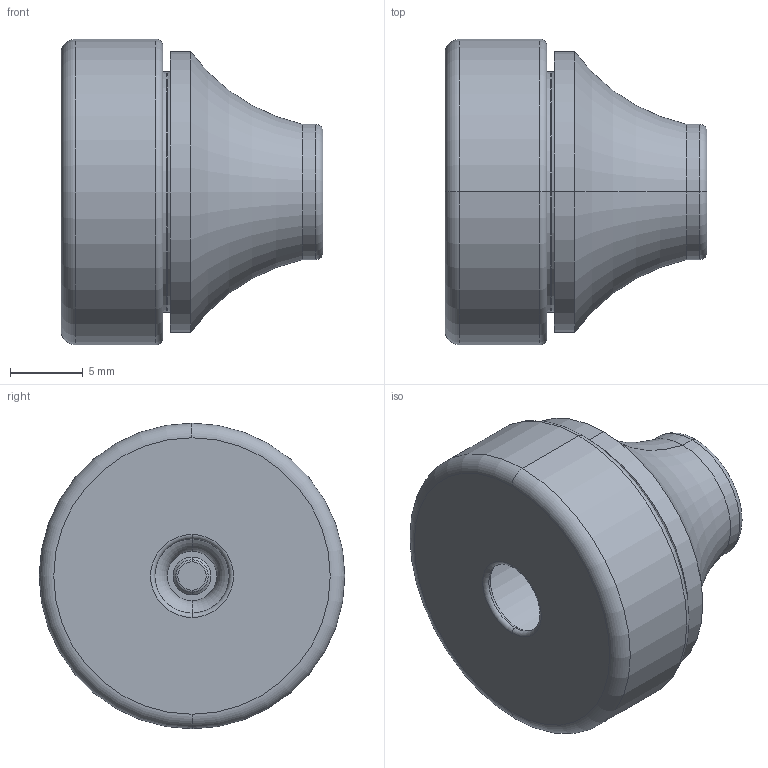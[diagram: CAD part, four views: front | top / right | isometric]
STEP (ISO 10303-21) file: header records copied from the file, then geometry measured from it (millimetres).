
FILE_DESCRIPTION (( 'STEP AP203' ), '1' );
FILE_NAME ('1458304-tst.step', '2007-10-25T07:21:17', ( 'Gustaf Hederström' ), ( 'Cevican AB' ), 'SwSTEP 2.0', 'SolidWorks 2002308', '' );
FILE_SCHEMA (( 'CONFIG_CONTROL_DESIGN' ));
Length unit declared in the file: millimetre
Products named in the file (1): 1458304-tst
Bounding box: 18 x 21 x 21 mm (x, y, z)
Volume: 2992.8 mm3; surface area: 2308.3 mm2
Topology: 1 solids, 1 shells, 57 faces, 112 edges, 62 vertices
Faces by surface type: torus 28, cone 14, cylinder 8, plane 7
Entity records: 1549 total; most frequent: DIRECTION 318, CARTESIAN_POINT 232, ORIENTED_EDGE 224, AXIS2_PLACEMENT_3D 148, EDGE_CURVE 112, CIRCLE 90, VERTEX_POINT 62, EDGE_LOOP 62
